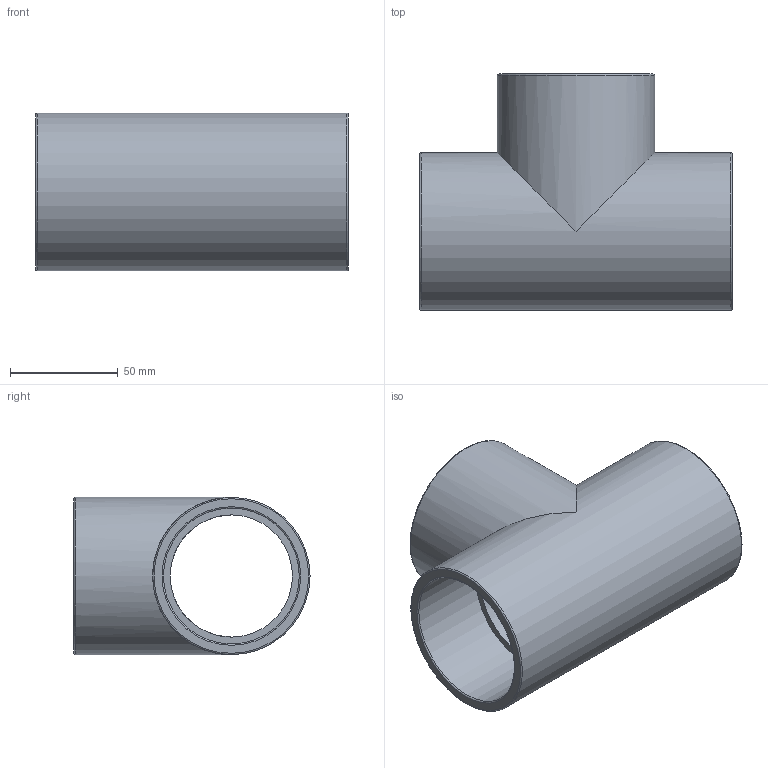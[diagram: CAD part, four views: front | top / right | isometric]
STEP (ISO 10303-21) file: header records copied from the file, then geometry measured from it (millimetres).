
FILE_DESCRIPTION(/* description */ ('PLASSON TEE-CEMENT PVC 63'),/* implementation_level */ '2;1');
FILE_NAME(/* name */ 'C:\Dropbox\KIMPROJECTS-Inventor\99-16-3568-Processing\PVC Catalog 2017\050400\050400063.ipt.stp',/* time_stamp */ '2017-12-07T15:54:25+02:00',/* author */ ('KIM'),/* organization */ (''),/* preprocessor_version */ 'ST-DEVELOPER v15.6',/* originating_system */ 'Autodesk Inventor 2015',/* authorisation */ '');
FILE_SCHEMA (('AUTOMOTIVE_DESIGN { 1 0 10303 214 3 1 1 }'));
Length unit declared in the file: millimetre
Products named in the file (1): 050400063
Bounding box: 145 x 109.5 x 73 mm (x, y, z)
Volume: 225431.5 mm3; surface area: 78630.5 mm2
Topology: 1 solids, 1 shells, 19 faces, 43 edges, 28 vertices
Faces by surface type: cylinder 7, torus 6, plane 6
Full cylindrical faces by diameter (mm): 56.7 x2, 63 x3, 73 x2
Entity records: 446 total; most frequent: DIRECTION 84, CARTESIAN_POINT 64, ORIENTED_EDGE 44, AXIS2_PLACEMENT_3D 42, EDGE_LOOP 40, VERTEX_POINT 22, EDGE_CURVE 22, FACE_BOUND 21
